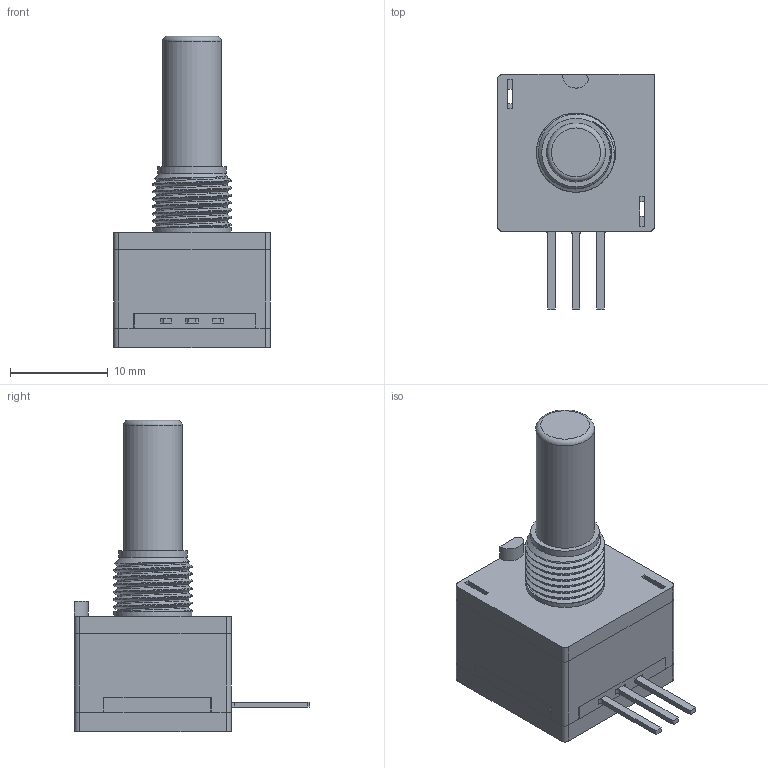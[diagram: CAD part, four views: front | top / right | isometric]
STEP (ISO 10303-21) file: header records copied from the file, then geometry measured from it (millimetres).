
FILE_DESCRIPTION(('FreeCAD Model'),'2;1');
FILE_NAME('Open CASCADE Shape Model','2023-03-24T10:42:07',(''),(''), 'Open CASCADE STEP processor 7.6','FreeCAD','Unknown');
FILE_SCHEMA(('AUTOMOTIVE_DESIGN { 1 0 10303 214 1 1 1 1 }'));
Length unit declared in the file: millimetre
Products named in the file (1): Fusion010
Bounding box: 16 x 24 x 31.8 mm (x, y, z)
Volume: 3536.1 mm3; surface area: 2303.4 mm2
Topology: 1 solids, 4 shells, 184 faces, 435 edges, 261 vertices
Faces by surface type: plane 115, cylinder 42, bspline 24, cone 2, torus 1
Full cylindrical faces by diameter (mm): 4.2 x1, 6 x2, 6.02 x2, 7 x1, 8 x1, 8.08 x6
Entity records: 17181 total; most frequent: CARTESIAN_POINT 8066, DIRECTION 1352, ORIENTED_EDGE 868, PCURVE 868, DEFINITIONAL_REPRESENTATION 868, LINE 844, VECTOR 844, EDGE_CURVE 434
